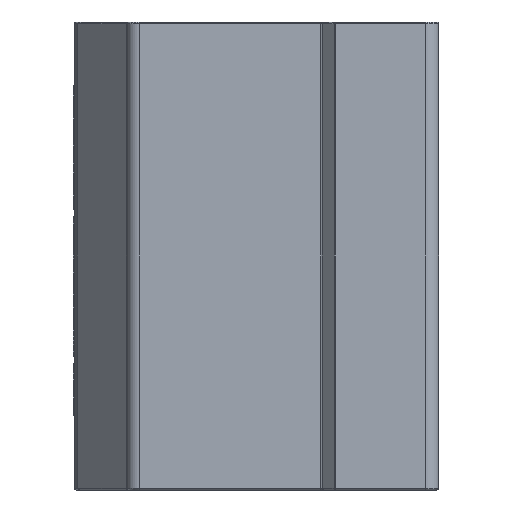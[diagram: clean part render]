
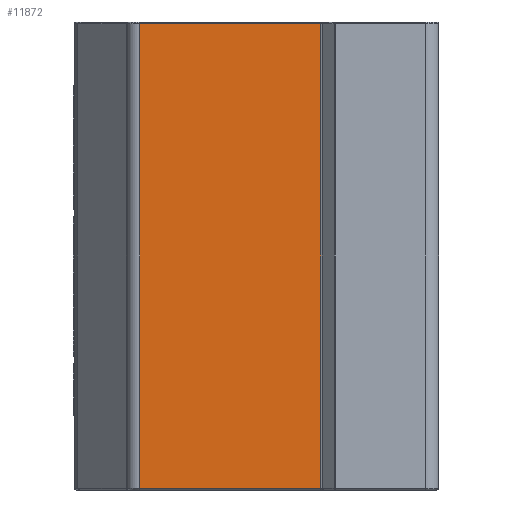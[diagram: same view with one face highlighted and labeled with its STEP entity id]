
A CAD part, left-side view. The second image highlights one B-rep face of the part: STEP entity #11872.
In plain terms, the highlighted planar face has unit normal (-1, 0, 0).
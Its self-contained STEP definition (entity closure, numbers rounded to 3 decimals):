
#161 = CARTESIAN_POINT ( 'NONE',  ( -20., 8.55, 36. ) ) ;
#170 = AXIS2_PLACEMENT_3D ( 'NONE', #11023, #12200, #5321 ) ;
#586 = EDGE_LOOP ( 'NONE', ( #13214, #13657, #6162, #7026 ) ) ;
#671 = EDGE_CURVE ( 'NONE', #6193, #9263, #12099, .T. ) ;
#806 = VECTOR ( 'NONE', #12369, 1000. ) ;
#1589 = VERTEX_POINT ( 'NONE', #3027 ) ;
#2536 = CARTESIAN_POINT ( 'NONE',  ( -20., -5.388, 36. ) ) ;
#3027 = CARTESIAN_POINT ( 'NONE',  ( -20., 8.55, 0.15 ) ) ;
#4704 = DIRECTION ( 'NONE',  ( 0., 0., -1. ) ) ;
#5321 = DIRECTION ( 'NONE',  ( 0., 0., -1. ) ) ;
#5587 = DIRECTION ( 'NONE',  ( 0., 0., 1. ) ) ;
#5676 = CARTESIAN_POINT ( 'NONE',  ( -20., -5.388, 35.85 ) ) ;
#5984 = VECTOR ( 'NONE', #4704, 1000. ) ;
#6011 = VECTOR ( 'NONE', #5587, 1000. ) ;
#6162 = ORIENTED_EDGE ( 'NONE', *, *, #11561, .T. ) ;
#6193 = VERTEX_POINT ( 'NONE', #12674 ) ;
#7026 = ORIENTED_EDGE ( 'NONE', *, *, #671, .T. ) ;
#9263 = VERTEX_POINT ( 'NONE', #5676 ) ;
#9284 = LINE ( 'NONE', #10257, #11972 ) ;
#9900 = PLANE ( 'NONE',  #170 ) ;
#10015 = LINE ( 'NONE', #14657, #806 ) ;
#10257 = CARTESIAN_POINT ( 'NONE',  ( -20., -5.45, 0.15 ) ) ;
#11023 = CARTESIAN_POINT ( 'NONE',  ( -20., -5.45, 36. ) ) ;
#11475 = EDGE_CURVE ( 'NONE', #9263, #12467, #10015, .T. ) ;
#11561 = EDGE_CURVE ( 'NONE', #1589, #6193, #9284, .T. ) ;
#11872 = ADVANCED_FACE ( 'NONE', ( #12476 ), #9900, .F. ) ;
#11972 = VECTOR ( 'NONE', #13637, 1000. ) ;
#12099 = LINE ( 'NONE', #2536, #6011 ) ;
#12200 = DIRECTION ( 'NONE',  ( 1., 0., 0. ) ) ;
#12369 = DIRECTION ( 'NONE',  ( 0., 1., 0. ) ) ;
#12467 = VERTEX_POINT ( 'NONE', #12511 ) ;
#12476 = FACE_OUTER_BOUND ( 'NONE', #586, .T. ) ;
#12511 = CARTESIAN_POINT ( 'NONE',  ( -20., 8.55, 35.85 ) ) ;
#12674 = CARTESIAN_POINT ( 'NONE',  ( -20., -5.388, 0.15 ) ) ;
#13202 = EDGE_CURVE ( 'NONE', #12467, #1589, #14744, .T. ) ;
#13214 = ORIENTED_EDGE ( 'NONE', *, *, #11475, .T. ) ;
#13637 = DIRECTION ( 'NONE',  ( 0., -1., 0. ) ) ;
#13657 = ORIENTED_EDGE ( 'NONE', *, *, #13202, .T. ) ;
#14657 = CARTESIAN_POINT ( 'NONE',  ( -20., -5.45, 35.85 ) ) ;
#14744 = LINE ( 'NONE', #161, #5984 ) ;
